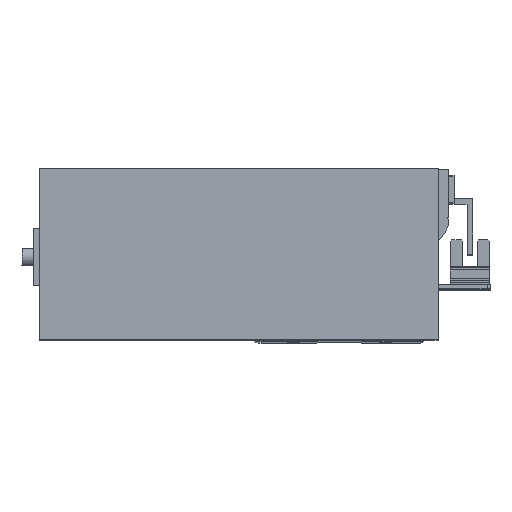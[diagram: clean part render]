
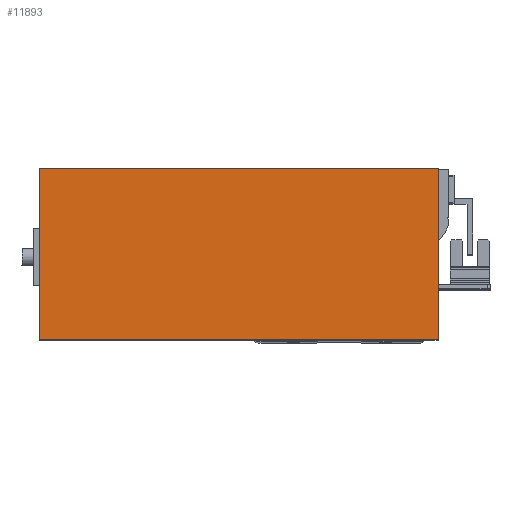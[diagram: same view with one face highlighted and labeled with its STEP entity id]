
A CAD part, top view. The second image highlights one B-rep face of the part: STEP entity #11893.
In plain terms, the highlighted planar face has unit normal (0, 0, 1).
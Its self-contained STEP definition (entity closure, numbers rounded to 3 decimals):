
#2452 = VERTEX_POINT ( 'NONE', #26277 ) ;
#3028 = VERTEX_POINT ( 'NONE', #14776 ) ;
#3121 = ORIENTED_EDGE ( 'NONE', *, *, #5507, .F. ) ;
#3330 = ORIENTED_EDGE ( 'NONE', *, *, #27721, .F. ) ;
#3736 = VERTEX_POINT ( 'NONE', #21775 ) ;
#3739 = DIRECTION ( 'NONE',  ( 1., 0., 0. ) ) ;
#5507 = EDGE_CURVE ( 'NONE', #3736, #3028, #25345, .T. ) ;
#5678 = DIRECTION ( 'NONE',  ( 0., -1., 0. ) ) ;
#5847 = CARTESIAN_POINT ( 'NONE',  ( -101.126, 76.593, 129.5 ) ) ;
#7068 = AXIS2_PLACEMENT_3D ( 'NONE', #7224, #14495, #30516 ) ;
#7224 = CARTESIAN_POINT ( 'NONE',  ( -101.126, 76.593, 129.5 ) ) ;
#8340 = DIRECTION ( 'NONE',  ( -1., 0., 0. ) ) ;
#10207 = PLANE ( 'NONE',  #7068 ) ;
#11017 = LINE ( 'NONE', #22406, #16475 ) ;
#11893 = ADVANCED_FACE ( 'NONE', ( #21997 ), #10207, .F. ) ;
#12984 = CARTESIAN_POINT ( 'NONE',  ( 37.874, 16.993, 129.5 ) ) ;
#13173 = EDGE_LOOP ( 'NONE', ( #3330, #19976, #3121, #25509 ) ) ;
#14495 = DIRECTION ( 'NONE',  ( 0., 0., -1. ) ) ;
#14776 = CARTESIAN_POINT ( 'NONE',  ( -101.126, 76.593, 129.5 ) ) ;
#14913 = EDGE_CURVE ( 'NONE', #3028, #2452, #22572, .T. ) ;
#16475 = VECTOR ( 'NONE', #8340, 1000. ) ;
#17135 = VECTOR ( 'NONE', #5678, 1000. ) ;
#18841 = VERTEX_POINT ( 'NONE', #12984 ) ;
#19758 = CARTESIAN_POINT ( 'NONE',  ( 37.874, 76.593, 129.5 ) ) ;
#19976 = ORIENTED_EDGE ( 'NONE', *, *, #14913, .F. ) ;
#21356 = DIRECTION ( 'NONE',  ( 0., 1., 0. ) ) ;
#21775 = CARTESIAN_POINT ( 'NONE',  ( -101.126, 16.993, 129.5 ) ) ;
#21997 = FACE_OUTER_BOUND ( 'NONE', #13173, .T. ) ;
#22406 = CARTESIAN_POINT ( 'NONE',  ( -101.126, 16.993, 129.5 ) ) ;
#22572 = LINE ( 'NONE', #5847, #28028 ) ;
#22639 = LINE ( 'NONE', #19758, #17135 ) ;
#24637 = VECTOR ( 'NONE', #21356, 1000. ) ;
#25345 = LINE ( 'NONE', #27265, #24637 ) ;
#25509 = ORIENTED_EDGE ( 'NONE', *, *, #25651, .F. ) ;
#25651 = EDGE_CURVE ( 'NONE', #18841, #3736, #11017, .T. ) ;
#26277 = CARTESIAN_POINT ( 'NONE',  ( 37.874, 76.593, 129.5 ) ) ;
#27265 = CARTESIAN_POINT ( 'NONE',  ( -101.126, 76.593, 129.5 ) ) ;
#27721 = EDGE_CURVE ( 'NONE', #2452, #18841, #22639, .T. ) ;
#28028 = VECTOR ( 'NONE', #3739, 1000. ) ;
#30516 = DIRECTION ( 'NONE',  ( -1., 0., 0. ) ) ;
